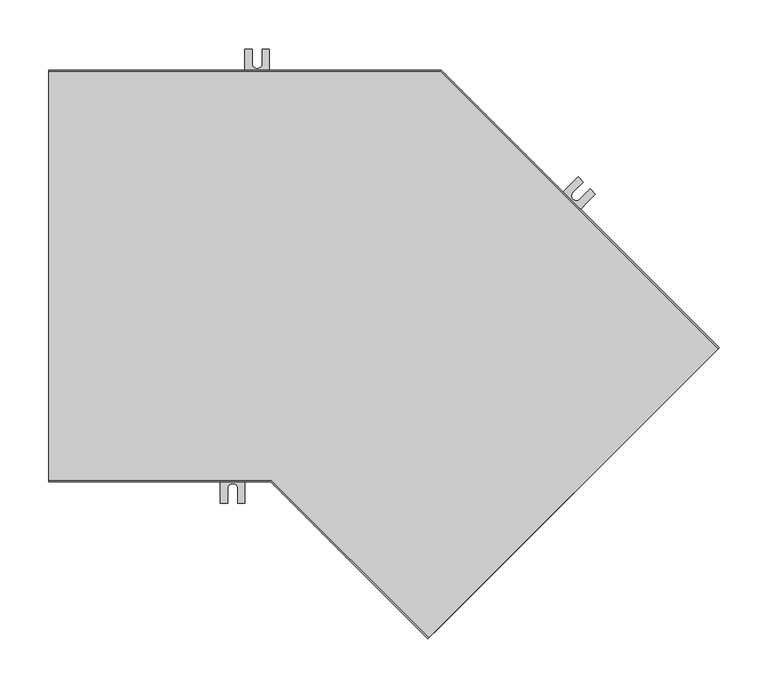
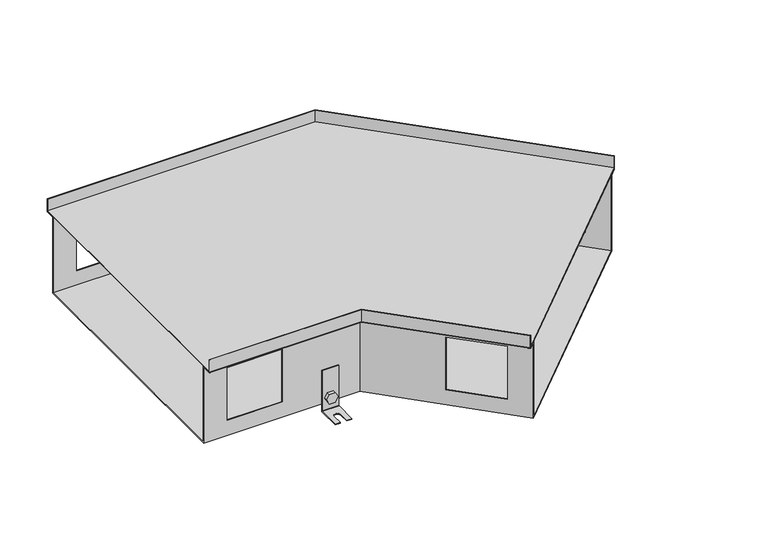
"""IFC4 building model written with IfcOpenShell, lengths in millimetres: proxy geometry, TECHNO_Угловой элемент_KVU : 420_140_135°."""

from ifc_helpers import new_model, si_unit, point, frame, frame_2d, origin, place, context, project, spatial, polyline, circle_curve, ellipse_curve, trimmed, segment, composite_curve, outline, extrude, source, transform, mapped, element, save
from ifc_brep_helpers import plane_surface, cylinder_surface, revolved_surface, advanced_brep


def mechanical_equipment_f61f8570(model_context):
    return source(origin(), model_context, "Body", "SolidModel", [
        extrude(outline(composite_curve([segment(trimmed(circle_curve(frame_2d((0.0, -7.5)), 7.5), [point((0.0, -15.0))], [point((0.0, 0.0))], False, "CARTESIAN"), True, "CONTINUOUS"), segment(trimmed(circle_curve(frame_2d((0.0, -7.5)), 7.5), [point((0.0, 0.0))], [point((0.0, -15.0))], False, "CARTESIAN"), True, "CONTINUOUS")], self_intersect=False)), frame((475.0290547, -27.3050358, -130.5), z_axis=(0.7071067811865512, 0.7071067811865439, 0.0), x_axis=(0.0, 0.0, 1.0)), (0.0, 0.0, 1.0), 1.5),
        extrude(outline(polyline([(0.0, 0.0), (8.6602541, 0.0), (12.990381, -7.5), (8.660254, -15.0), (0.0, -15.0), (-4.330127, -7.5), (0.0, 0.0)])), frame((459.1472568, -20.3327833, -130.5), z_axis=(0.7071067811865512, 0.7071067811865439, 0.0), x_axis=(0.3535533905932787, -0.3535533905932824, -0.8660254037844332)), (0.0, 0.0, 1.0), 5.1),
        advanced_brep(
        [(477.7160605, -31.6890978, -85.5), (477.7160605, -31.6890978, -148.5), (477.1503751, -32.2547832, -149.3), (453.8158513, -55.589307, -149.3), (453.8158513, -55.589307, -150.5), (477.1503751, -32.2547832, -150.5), (478.5645886, -30.8405697, -148.5), (478.5645886, -30.8405697, -85.5), (460.038391, -14.0114283, -85.5), (460.8869191, -13.1629001, -85.5), (460.8869191, -13.1629001, -148.5), (459.4727056, -14.5771137, -150.5), (436.1381818, -37.9116375, -150.5), (436.1381818, -37.9116375, -149.3), (459.4727056, -14.5771137, -149.3), (460.038391, -14.0114283, -148.5), (441.4414826, -43.2149383, -149.3), (452.0480843, -32.6083366, -149.3), (459.1191522, -39.6794044, -149.3), (448.5125504, -50.2860062, -149.3), (448.5125504, -50.2860062, -150.5), (441.4414826, -43.2149383, -150.5), (459.1191522, -39.6794044, -150.5), (452.0480843, -32.6083366, -150.5)],
        [
            (0, 1),
            (1, 2, circle_curve(frame((477.1503751, -32.2547832, -148.5), z_axis=(-0.7071067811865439, 0.7071067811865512, 0.0), x_axis=(-0.7071067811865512, -0.7071067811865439, 0.0)), 0.8)),
            (2, 3),
            (3, 4),
            (4, 5),
            (5, 6, circle_curve(frame((477.1503751, -32.2547832, -148.5), z_axis=(0.7071067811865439, -0.7071067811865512, 0.0), x_axis=(-0.7071067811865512, -0.7071067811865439, 0.0)), 2.0)),
            (6, 7),
            (7, 0),
            (8, 9),
            (9, 10),
            (10, 11, circle_curve(frame((459.4727056, -14.5771137, -148.5), z_axis=(-0.7071067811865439, 0.7071067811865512, 0.0), x_axis=(-0.7071067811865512, -0.7071067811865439, 0.0)), 2.0)),
            (11, 12),
            (12, 13),
            (13, 14),
            (14, 15, circle_curve(frame((459.4727056, -14.5771137, -148.5), z_axis=(0.7071067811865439, -0.7071067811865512, 0.0), x_axis=(-0.7071067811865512, -0.7071067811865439, 0.0)), 0.8)),
            (15, 8),
            (0, 8),
            (15, 1),
            (14, 2),
            (13, 16),
            (16, 17),
            (17, 18, circle_curve(frame((455.5836183, -36.1438705, -149.3), z_axis=(0.0, 0.0, -1.0), x_axis=(0.7071067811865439, -0.7071067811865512, 0.0)), 5.0)),
            (18, 19),
            (19, 3),
            (19, 20),
            (20, 4),
            (12, 21),
            (21, 16),
            (20, 22),
            (22, 23, circle_curve(frame((455.5836183, -36.1438705, -150.5), z_axis=(0.0, 0.0, 1.0), x_axis=(0.7071067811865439, -0.7071067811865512, 0.0)), 5.0)),
            (23, 21),
            (11, 5),
            (10, 6),
            (9, 7),
            (23, 17),
            (18, 22),
        ],
        [
            plane_surface(frame((477.7160605, -31.6890978, -85.5), z_axis=(0.7071067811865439, -0.7071067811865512, 0.0), x_axis=(0.0, 0.0, -1.0))),
            plane_surface(frame((460.038391, -14.0114283, -85.5), z_axis=(-0.7071067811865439, 0.7071067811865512, 0.0), x_axis=(0.0, 0.0, 1.0))),
            plane_surface(frame((477.7160605, -31.6890978, -85.5), z_axis=(-0.7071067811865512, -0.7071067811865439, 0.0), x_axis=(-0.7071067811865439, 0.7071067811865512, 0.0))),
            revolved_surface(polyline([(458.9070201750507, -15.142799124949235, -148.5), (476.58468967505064, -32.82046862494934, -148.5)]), (459.4727056, -14.5771137, -148.5), (-0.7071067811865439, 0.7071067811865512, 0.0)),
            plane_surface(frame((477.1503751, -32.2547832, -149.3), z_axis=(0.0, 0.0, 1.0), x_axis=(-0.7071067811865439, 0.7071067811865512, 0.0))),
            plane_surface(frame((453.8158513, -55.589307, -149.3), z_axis=(-0.7071067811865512, -0.7071067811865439, 0.0), x_axis=(-0.7071067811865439, 0.7071067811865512, 0.0))),
            plane_surface(frame((453.8158513, -55.589307, -150.5), z_axis=(0.0, 0.0, -1.0), x_axis=(-0.7071067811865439, 0.7071067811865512, 0.0))),
            cylinder_surface(frame((459.4727056, -14.5771137, -148.5), z_axis=(0.7071067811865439, -0.7071067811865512, 0.0), x_axis=(-0.7071067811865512, -0.7071067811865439, 0.0)), 2.0),
            plane_surface(frame((478.5645886, -30.8405697, -148.5), z_axis=(0.7071067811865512, 0.7071067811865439, 0.0), x_axis=(-0.7071067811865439, 0.7071067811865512, 0.0))),
            plane_surface(frame((478.5645886, -30.8405697, -85.5), z_axis=(0.0, 0.0, 1.0), x_axis=(-0.7071067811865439, 0.7071067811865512, 0.0))),
            plane_surface(frame((452.0480843, -32.6083366, -149.3), z_axis=(0.7071067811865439, -0.7071067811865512, 0.0), x_axis=(0.0, 0.0, -1.0))),
            plane_surface(frame((448.5125504, -50.2860062, -149.3), z_axis=(-0.707106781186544, 0.7071067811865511, 0.0), x_axis=(0.0, 0.0, -1.0))),
            revolved_surface(polyline([(459.1191522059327, -39.67940440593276, -149.3), (459.1191522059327, -39.67940440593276, -150.5)]), (455.5836183, -36.1438705, -150.5), (0.0, 0.0, 1.0)),
        ],
        [
            (0, [[1, 2, 3, 4, 5, 6, 7, 8]]),
            (1, [[9, 10, 11, 12, 13, 14, 15, 16]]),
            (2, [[-1, 17, -16, 18]]),
            (3, [[-2, -18, -15, 19]]),
            (4, [[-3, -19, -14, 20, 21, 22, 23, 24]]),
            (5, [[-4, -24, 25, 26]]),
            (5, [[-13, 27, 28, -20]]),
            (6, [[-5, -26, 29, 30, 31, -27, -12, 32]]),
            (7, [[-6, -32, -11, 33]]),
            (8, [[-7, -33, -10, 34]]),
            (9, [[-8, -34, -9, -17]]),
            (10, [[35, -21, -28, -31]]),
            (11, [[36, -29, -25, -23]]),
            (12, [[-35, -30, -36, -22]]),
        ],
    ),
        extrude(outline(composite_curve([segment(trimmed(circle_curve(frame_2d((0.0, -7.5)), 7.5), [point((0.0, -15.0))], [point((0.0, 0.0))], False, "CARTESIAN"), True, "CONTINUOUS"), segment(trimmed(circle_curve(frame_2d((0.0, -7.5)), 7.5), [point((0.0, 0.0))], [point((0.0, -15.0))], False, "CARTESIAN"), True, "CONTINUOUS")], self_intersect=False)), frame((517.6675936, 71.9020456, -130.5), z_axis=(0.7071067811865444, 0.7071067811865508, 0.0), x_axis=(0.0, 0.0, -1.0)), (0.0, 0.0, 1.0), 1.5),
        extrude(outline(polyline([(0.0, 0.0), (4.330127, -7.5), (0.0, -15.0000001), (-8.660254, -15.0), (-12.9903811, -7.5000001), (-8.6602541, 0.0), (0.0, 0.0)])), frame((531.0038072, 62.3842087, -130.5), z_axis=(0.7071067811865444, 0.7071067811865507, 0.0), x_axis=(0.35355339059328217, -0.35355339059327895, 0.8660254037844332)), (0.0, 0.0, 1.0), 5.1),
        advanced_brep(
        [(516.041248, 77.3467678, -85.5), (516.041248, 77.3467678, -148.5), (516.6069335, 77.9124533, -149.3), (539.9414572, 101.2469771, -149.3), (539.9414572, 101.2469771, -150.5), (516.6069335, 77.9124533, -150.5), (515.1927199, 76.4982397, -148.5), (515.1927199, 76.4982397, -85.5), (533.7189176, 59.6690983, -85.5), (532.8703894, 58.8205702, -85.5), (532.8703894, 58.8205702, -148.5), (534.284603, 60.2347837, -150.5), (557.6191268, 83.5693075, -150.5), (557.6191268, 83.5693075, -149.3), (534.284603, 60.2347837, -149.3), (533.7189176, 59.6690983, -148.5), (552.3158259, 88.8726084, -149.3), (541.7092242, 78.2660067, -149.3), (534.6381564, 85.3370745, -149.3), (545.2447581, 95.9436762, -149.3), (545.2447581, 95.9436762, -150.5), (552.3158259, 88.8726084, -150.5), (534.6381564, 85.3370745, -150.5), (541.7092242, 78.2660067, -150.5)],
        [
            (0, 1),
            (1, 2, circle_curve(frame((516.6069335, 77.9124533, -148.5), z_axis=(0.7071067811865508, -0.7071067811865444, 0.0), x_axis=(0.7071067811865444, 0.7071067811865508, 0.0)), 0.8)),
            (2, 3),
            (3, 4),
            (4, 5),
            (5, 6, circle_curve(frame((516.6069335, 77.9124533, -148.5), z_axis=(-0.7071067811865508, 0.7071067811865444, 0.0), x_axis=(0.7071067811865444, 0.7071067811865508, 0.0)), 2.0)),
            (6, 7),
            (7, 0),
            (8, 9),
            (9, 10),
            (10, 11, circle_curve(frame((534.284603, 60.2347837, -148.5), z_axis=(0.7071067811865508, -0.7071067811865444, 0.0), x_axis=(0.7071067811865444, 0.7071067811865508, 0.0)), 2.0)),
            (11, 12),
            (12, 13),
            (13, 14),
            (14, 15, circle_curve(frame((534.284603, 60.2347837, -148.5), z_axis=(-0.7071067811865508, 0.7071067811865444, 0.0), x_axis=(0.7071067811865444, 0.7071067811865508, 0.0)), 0.8)),
            (15, 8),
            (0, 8),
            (15, 1),
            (14, 2),
            (13, 16),
            (16, 17),
            (17, 18, circle_curve(frame((538.1736903, 81.8015406, -149.3), z_axis=(0.0, 0.0, -1.0), x_axis=(-0.7071067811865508, 0.7071067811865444, 0.0)), 5.0)),
            (18, 19),
            (19, 3),
            (19, 20),
            (20, 4),
            (12, 21),
            (21, 16),
            (20, 22),
            (22, 23, circle_curve(frame((538.1736903, 81.8015406, -150.5), z_axis=(0.0, 0.0, 1.0), x_axis=(-0.7071067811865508, 0.7071067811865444, 0.0)), 5.0)),
            (23, 21),
            (11, 5),
            (10, 6),
            (9, 7),
            (23, 17),
            (18, 22),
        ],
        [
            plane_surface(frame((516.041248, 77.3467678, -85.5), z_axis=(-0.7071067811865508, 0.7071067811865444, 0.0), x_axis=(0.0, 0.0, -1.0))),
            plane_surface(frame((533.7189176, 59.6690983, -85.5), z_axis=(0.7071067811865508, -0.7071067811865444, 0.0), x_axis=(0.0, 0.0, 1.0))),
            plane_surface(frame((516.041248, 77.3467678, -85.5), z_axis=(0.7071067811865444, 0.7071067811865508, 0.0), x_axis=(0.7071067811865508, -0.7071067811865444, 0.0))),
            revolved_surface(polyline([(534.8502884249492, 60.800469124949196, -148.5), (517.1726188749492, 78.47813867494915, -148.5)]), (534.284603, 60.2347837, -148.5), (0.7071067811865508, -0.7071067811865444, 0.0)),
            plane_surface(frame((516.6069335, 77.9124533, -149.3), z_axis=(0.0, 0.0, 1.0000000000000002), x_axis=(0.7071067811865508, -0.7071067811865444, 0.0))),
            plane_surface(frame((539.9414572, 101.2469771, -149.3), z_axis=(0.7071067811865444, 0.7071067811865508, 0.0), x_axis=(0.7071067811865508, -0.7071067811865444, 0.0))),
            plane_surface(frame((539.9414572, 101.2469771, -150.5), z_axis=(0.0, 0.0, -1.0000000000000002), x_axis=(0.7071067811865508, -0.7071067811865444, 0.0))),
            cylinder_surface(frame((534.284603, 60.2347837, -148.5), z_axis=(-0.7071067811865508, 0.7071067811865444, 0.0), x_axis=(0.7071067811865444, 0.7071067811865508, 0.0)), 2.0),
            plane_surface(frame((515.1927199, 76.4982397, -148.5), z_axis=(-0.7071067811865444, -0.7071067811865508, 0.0), x_axis=(0.7071067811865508, -0.7071067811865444, 0.0))),
            plane_surface(frame((515.1927199, 76.4982397, -85.5), z_axis=(0.0, 0.0, 1.0000000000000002), x_axis=(0.7071067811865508, -0.7071067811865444, 0.0))),
            plane_surface(frame((541.7092242, 78.2660067, -149.3), z_axis=(-0.7071067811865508, 0.7071067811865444, 0.0), x_axis=(0.0, 0.0, -1.0))),
            plane_surface(frame((545.2447581, 95.9436762, -149.3), z_axis=(0.7071067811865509, -0.7071067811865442, 0.0), x_axis=(0.0, 0.0, -1.0))),
            revolved_surface(polyline([(534.6381563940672, 85.33707450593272, -149.3), (534.6381563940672, 85.33707450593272, -150.5)]), (538.1736903, 81.8015406, -150.5), (0.0, 0.0, 1.0)),
        ],
        [
            (0, [[1, 2, 3, 4, 5, 6, 7, 8]]),
            (1, [[9, 10, 11, 12, 13, 14, 15, 16]]),
            (2, [[-1, 17, -16, 18]]),
            (3, [[-2, -18, -15, 19]]),
            (4, [[-3, -19, -14, 20, 21, 22, 23, 24]]),
            (5, [[-4, -24, 25, 26]]),
            (5, [[-13, 27, 28, -20]]),
            (6, [[-5, -26, 29, 30, 31, -27, -12, 32]]),
            (7, [[-6, -32, -11, 33]]),
            (8, [[-7, -33, -10, 34]]),
            (9, [[-8, -34, -9, -17]]),
            (10, [[35, -21, -28, -31]]),
            (11, [[36, -29, -25, -23]]),
            (12, [[-35, -30, -36, -22]]),
        ],
    ),
        extrude(outline(composite_curve([segment(trimmed(circle_curve(frame_2d((-130.5, 212.5)), 7.5), [point((-130.5, 205.0))], [point((-130.5, 220.0))], False, "CARTESIAN"), True, "CONTINUOUS"), segment(trimmed(circle_curve(frame_2d((-130.5, 212.5)), 7.5), [point((-130.5, 220.0))], [point((-130.5, 205.0))], False, "CARTESIAN"), True, "CONTINUOUS")], self_intersect=False)), frame((0.0, 195.2, 0.0), z_axis=(0.0, 1.0, 0.0), x_axis=(0.0, 0.0, 1.0)), (0.0, 0.0, 1.0), 1.5),
        extrude(outline(polyline([(-130.5, 203.839746), (-138.0, 208.169873), (-138.0, 216.830127), (-130.5, 221.160254), (-123.0, 216.830127), (-123.0, 208.169873), (-130.5, 203.839746)])), frame((0.0, 197.9, 0.0), z_axis=(0.0, 1.0, 0.0), x_axis=(0.0, 0.0, 1.0)), (0.0, 0.0, 1.0), 5.1),
        advanced_brep(
        [(225.0, 197.9, -85.5), (225.0, 196.7, -85.5), (225.0, 196.7, -148.5), (225.0, 198.7, -150.5), (225.0, 231.7, -150.5), (225.0, 231.7, -149.3), (225.0, 198.7, -149.3), (225.0, 197.9, -148.5), (200.0, 197.9, -85.5), (200.0, 197.9, -148.5), (200.0, 198.7, -149.3), (200.0, 231.7, -149.3), (200.0, 231.7, -150.5), (200.0, 198.7, -150.5), (200.0, 196.7, -148.5), (200.0, 196.7, -85.5), (217.5, 231.7, -149.3), (217.5, 216.7, -149.3), (207.5, 216.7, -149.3), (207.5, 231.7, -149.3), (207.5, 231.7, -150.5), (217.5, 231.7, -150.5), (207.5, 216.7, -150.5), (217.5, 216.7, -150.5)],
        [
            (0, 1),
            (1, 2),
            (2, 3, circle_curve(frame((225.0, 198.7, -148.5), z_axis=(1.0, 0.0, 0.0), x_axis=(0.0, 1.0, 0.0)), 2.0)),
            (3, 4),
            (4, 5),
            (5, 6),
            (6, 7, circle_curve(frame((225.0, 198.7, -148.5), z_axis=(-1.0, 0.0, 0.0), x_axis=(0.0, 1.0, 0.0)), 0.8)),
            (7, 0),
            (8, 9),
            (9, 10, circle_curve(frame((200.0, 198.7, -148.5), z_axis=(1.0, 0.0, 0.0), x_axis=(0.0, 1.0, 0.0)), 0.8)),
            (10, 11),
            (11, 12),
            (12, 13),
            (13, 14, circle_curve(frame((200.0, 198.7, -148.5), z_axis=(-1.0, 0.0, 0.0), x_axis=(0.0, 1.0, 0.0)), 2.0)),
            (14, 15),
            (15, 8),
            (7, 9),
            (8, 0),
            (6, 10),
            (5, 16),
            (16, 17),
            (17, 18, circle_curve(frame((212.5, 216.7, -149.3), z_axis=(0.0, 0.0, -1.0), x_axis=(1.0, 0.0, 0.0)), 5.0)),
            (18, 19),
            (19, 11),
            (19, 20),
            (20, 12),
            (4, 21),
            (21, 16),
            (3, 13),
            (20, 22),
            (22, 23, circle_curve(frame((212.5, 216.7, -150.5), z_axis=(0.0, 0.0, 1.0), x_axis=(1.0, 0.0, 0.0)), 5.0)),
            (23, 21),
            (2, 14),
            (1, 15),
            (18, 22),
            (23, 17),
        ],
        [
            plane_surface(frame((225.0, 197.9, -85.5), z_axis=(1.0, 0.0, 0.0), x_axis=(0.0, 0.0, -1.0))),
            plane_surface(frame((200.0, 197.9, -85.5), z_axis=(-1.0, 0.0, 0.0), x_axis=(0.0, 0.0, 1.0))),
            plane_surface(frame((225.0, 197.9, -85.5), z_axis=(0.0, 1.0, 0.0), x_axis=(-1.0, 0.0, 0.0))),
            revolved_surface(polyline([(200.0, 199.5, -148.5), (225.0, 199.5, -148.5)]), (200.0, 198.7, -148.5), (-1.0, 0.0, 0.0)),
            plane_surface(frame((225.0, 198.7, -149.3), z_axis=(0.0, 0.0, 1.0), x_axis=(-1.0, 0.0, 0.0))),
            plane_surface(frame((225.0, 231.7, -149.3), z_axis=(0.0, 1.0, 0.0), x_axis=(-1.0, 0.0, 0.0))),
            plane_surface(frame((225.0, 231.7, -150.5), z_axis=(0.0, 0.0, -1.0), x_axis=(-1.0, 0.0, 0.0))),
            cylinder_surface(frame((200.0, 198.7, -148.5), z_axis=(1.0, 0.0, 0.0), x_axis=(0.0, 1.0, 0.0)), 2.0),
            plane_surface(frame((225.0, 196.7, -148.5), z_axis=(0.0, -1.0, 0.0), x_axis=(-1.0, 0.0, 0.0))),
            plane_surface(frame((225.0, 196.7, -85.5), z_axis=(0.0, 0.0, 1.0), x_axis=(-1.0, 0.0, 0.0))),
            plane_surface(frame((207.5, 216.7, -149.3), z_axis=(1.0, 0.0, 0.0), x_axis=(0.0, 0.0, -1.0))),
            plane_surface(frame((217.5, 231.7, -149.3), z_axis=(-1.0, 0.0, 0.0), x_axis=(0.0, 0.0, -1.0))),
            revolved_surface(polyline([(217.5, 216.7, -149.3), (217.5, 216.7, -150.5)]), (212.5, 216.7, -150.5), (0.0, 0.0, 1.0)),
        ],
        [
            (0, [[1, 2, 3, 4, 5, 6, 7, 8]]),
            (1, [[9, 10, 11, 12, 13, 14, 15, 16]]),
            (2, [[17, -9, 18, -8]]),
            (3, [[19, -10, -17, -7]]),
            (4, [[20, 21, 22, 23, 24, -11, -19, -6]]),
            (5, [[-24, 25, 26, -12]]),
            (5, [[27, 28, -20, -5]]),
            (6, [[29, -13, -26, 30, 31, 32, -27, -4]]),
            (7, [[33, -14, -29, -3]]),
            (8, [[34, -15, -33, -2]]),
            (9, [[-18, -16, -34, -1]]),
            (10, [[-30, -25, -23, 35]]),
            (11, [[-21, -28, -32, 36]]),
            (12, [[-22, -36, -31, -35]]),
        ],
    ),
        extrude(outline(composite_curve([segment(trimmed(circle_curve(frame_2d((-130.5, 187.5)), 7.5), [point((-130.5, 180.0))], [point((-130.5, 195.0))], False, "CARTESIAN"), True, "CONTINUOUS"), segment(trimmed(circle_curve(frame_2d((-130.5, 187.5)), 7.5), [point((-130.5, 195.0))], [point((-130.5, 180.0))], False, "CARTESIAN"), True, "CONTINUOUS")], self_intersect=False)), frame((0.0, -196.7, 0.0), z_axis=(0.0, 1.0, 0.0), x_axis=(0.0, 0.0, 1.0)), (0.0, 0.0, 1.0), 1.5),
        extrude(outline(polyline([(-130.5, 178.839746), (-138.0, 183.169873), (-138.0, 191.830127), (-130.5, 196.160254), (-123.0, 191.830127), (-123.0, 183.169873), (-130.5, 178.839746)])), frame((0.0, -203.0, 0.0), z_axis=(0.0, 1.0, 0.0), x_axis=(0.0, 0.0, 1.0)), (0.0, 0.0, 1.0), 5.1),
        advanced_brep(
        [(200.0, -197.9, -85.5), (200.0, -197.9, -148.5), (200.0, -198.7, -149.3), (200.0, -231.7, -149.3), (200.0, -231.7, -150.5), (200.0, -198.7, -150.5), (200.0, -196.7, -148.5), (200.0, -196.7, -85.5), (175.0, -197.9, -85.5), (175.0, -196.7, -85.5), (175.0, -196.7, -148.5), (175.0, -198.7, -150.5), (175.0, -231.7, -150.5), (175.0, -231.7, -149.3), (175.0, -198.7, -149.3), (175.0, -197.9, -148.5), (182.5, -231.7, -149.3), (182.5, -216.7, -149.3), (192.5, -216.7, -149.3), (192.5, -231.7, -149.3), (192.5, -231.7, -150.5), (182.5, -231.7, -150.5), (192.5, -216.7, -150.5), (182.5, -216.7, -150.5)],
        [
            (0, 1),
            (1, 2, circle_curve(frame((200.0, -198.7, -148.5), z_axis=(-1.0, 0.0, 0.0), x_axis=(0.0, -1.0, 0.0)), 0.8)),
            (2, 3),
            (3, 4),
            (4, 5),
            (5, 6, circle_curve(frame((200.0, -198.7, -148.5), z_axis=(1.0, 0.0, 0.0), x_axis=(0.0, -1.0, 0.0)), 2.0)),
            (6, 7),
            (7, 0),
            (8, 9),
            (9, 10),
            (10, 11, circle_curve(frame((175.0, -198.7, -148.5), z_axis=(-1.0, 0.0, 0.0), x_axis=(0.0, -1.0, 0.0)), 2.0)),
            (11, 12),
            (12, 13),
            (13, 14),
            (14, 15, circle_curve(frame((175.0, -198.7, -148.5), z_axis=(1.0, 0.0, 0.0), x_axis=(0.0, -1.0, 0.0)), 0.8)),
            (15, 8),
            (0, 8),
            (15, 1),
            (14, 2),
            (13, 16),
            (16, 17),
            (17, 18, circle_curve(frame((187.5, -216.7, -149.3), z_axis=(0.0, 0.0, -1.0), x_axis=(1.0, 0.0, 0.0)), 5.0)),
            (18, 19),
            (19, 3),
            (19, 20),
            (20, 4),
            (12, 21),
            (21, 16),
            (20, 22),
            (22, 23, circle_curve(frame((187.5, -216.7, -150.5), z_axis=(0.0, 0.0, 1.0), x_axis=(1.0, 0.0, 0.0)), 5.0)),
            (23, 21),
            (11, 5),
            (10, 6),
            (9, 7),
            (23, 17),
            (18, 22),
        ],
        [
            plane_surface(frame((200.0, -197.9, -85.5), z_axis=(1.0, 0.0, 0.0), x_axis=(0.0, 0.0, -1.0))),
            plane_surface(frame((175.0, -197.9, -85.5), z_axis=(-1.0, 0.0, 0.0), x_axis=(0.0, 0.0, 1.0))),
            plane_surface(frame((200.0, -197.9, -85.5), z_axis=(0.0, -1.0, 0.0), x_axis=(-1.0, 0.0, 0.0))),
            revolved_surface(polyline([(175.0, -199.5, -148.5), (200.0, -199.5, -148.5)]), (175.0, -198.7, -148.5), (-1.0, 0.0, 0.0)),
            plane_surface(frame((200.0, -198.7, -149.3), z_axis=(0.0, 0.0, 1.0), x_axis=(-1.0, 0.0, 0.0))),
            plane_surface(frame((200.0, -231.7, -149.3), z_axis=(0.0, -1.0, 0.0), x_axis=(-1.0, 0.0, 0.0))),
            plane_surface(frame((200.0, -231.7, -150.5), z_axis=(0.0, 0.0, -1.0), x_axis=(-1.0, 0.0, 0.0))),
            cylinder_surface(frame((175.0, -198.7, -148.5), z_axis=(1.0, 0.0, 0.0), x_axis=(0.0, -1.0, 0.0)), 2.0),
            plane_surface(frame((200.0, -196.7, -148.5), z_axis=(0.0, 1.0, 0.0), x_axis=(-1.0, 0.0, 0.0))),
            plane_surface(frame((200.0, -196.7, -85.5), z_axis=(0.0, 0.0, 1.0), x_axis=(-1.0, 0.0, 0.0))),
            plane_surface(frame((182.5, -216.7, -149.3), z_axis=(1.0, 0.0, 0.0), x_axis=(0.0, 0.0, -1.0))),
            plane_surface(frame((192.5, -231.7, -149.3), z_axis=(-1.0, 0.0, 0.0), x_axis=(0.0, 0.0, -1.0))),
            revolved_surface(polyline([(192.5, -216.7, -149.3), (192.5, -216.7, -150.5)]), (187.5, -216.7, -150.5), (0.0, 0.0, 1.0)),
        ],
        [
            (0, [[1, 2, 3, 4, 5, 6, 7, 8]]),
            (1, [[9, 10, 11, 12, 13, 14, 15, 16]]),
            (2, [[-1, 17, -16, 18]]),
            (3, [[-2, -18, -15, 19]]),
            (4, [[-3, -19, -14, 20, 21, 22, 23, 24]]),
            (5, [[-4, -24, 25, 26]]),
            (5, [[-13, 27, 28, -20]]),
            (6, [[-5, -26, 29, 30, 31, -27, -12, 32]]),
            (7, [[-6, -32, -11, 33]]),
            (8, [[-7, -33, -10, 34]]),
            (9, [[-8, -34, -9, -17]]),
            (10, [[35, -21, -28, -31]]),
            (11, [[36, -29, -25, -23]]),
            (12, [[-35, -30, -36, -22]]),
        ],
    ),
        extrude(outline(polyline([(682.8477377, -74.044794), (387.5599459, -369.3325858), (227.0273601, -208.8), (0.0, -208.8), (0.0, 208.8), (400.0029437, 208.8), (682.8477377, -74.044794)])), frame((0.0, 0.0, -19.3), z_axis=(0.0, 0.0, 1.0), x_axis=(1.0, 0.0, 0.0)), (0.0, 0.0, 1.0), 1.2),
        advanced_brep(
        [(386.7114178, -370.181114, -19.3), (387.5599459, -369.3325858, -20.5), (397.1765981, -359.7159336, -20.5), (397.1765981, -359.7159336, -140.0), (673.2310855, -83.6614462, -140.0), (673.2310855, -83.6614462, -20.5), (682.8477377, -74.044794, -20.5), (683.6962659, -73.1962659, -19.3), (683.6962659, -73.1962659, 0.0), (682.8477377, -74.044794, 0.0), (682.8477377, -74.044794, -19.3), (673.2310855, -83.6614462, -19.3), (672.3825574, -84.5099744, -20.5), (672.3825574, -84.5099744, -138.8), (398.0251263, -358.8674055, -138.8), (398.0251263, -358.8674055, -20.5), (397.1765981, -359.7159336, -19.3), (387.5599459, -369.3325858, -19.3), (387.5599459, -369.3325858, 0.0), (386.7114178, -370.181114, 0.0), (0.0, -210.0, -19.3), (0.0, -210.0, 0.0), (0.0, -208.8, 0.0), (0.0, -208.8, -19.3), (0.0, -195.2, -19.3), (0.0, -194.0, -20.5), (0.0, -194.0, -138.8), (0.0, 194.0, -138.8), (0.0, 194.0, -20.5), (0.0, 195.2, -19.3), (0.0, 208.8, -19.3), (0.0, 208.8, 0.0), (0.0, 210.0, 0.0), (0.0, 210.0, -19.3), (0.0, 208.8, -20.5), (0.0, 195.2, -20.5), (0.0, 195.2, -140.0), (0.0, -195.2, -140.0), (0.0, -195.2, -20.5), (0.0, -208.8, -20.5), (227.0273601, -208.8, -20.5), (226.5303038, -210.0, -19.3), (227.0273601, -208.8, 0.0), (227.0273601, -208.8, -19.3), (232.6606645, -195.2, -140.0), (232.6606645, -195.2, -20.5), (35.0, -195.2, -33.2), (117.0, -195.2, -33.2), (117.0, -195.2, -116.2), (35.0, -195.2, -116.2), (233.1577208, -194.0, -20.5), (233.1577208, -194.0, -138.8), (117.0, -194.0, -33.2), (35.0, -194.0, -33.2), (35.0, -194.0, -116.2), (117.0, -194.0, -116.2), (232.6606645, -195.2, -19.3), (314.4451047, -276.9844402, -33.2), (372.4278608, -334.9671963, -33.2), (372.4278608, -334.9671963, -116.2), (314.4451047, -276.9844402, -116.2), (394.3696393, 195.2, -140.0), (393.872583, 194.0, -138.8), (373.2763889, -334.1186681, -33.2), (315.2936329, -276.1359121, -33.2), (315.2936329, -276.1359121, -116.2), (373.2763889, -334.1186681, -116.2), (226.5303038, -210.0, 0.0), (394.3696393, 195.2, -20.5), (648.4823482, -58.9127089, -33.2), (590.4995921, -0.9299528, -33.2), (590.4995921, -0.9299528, -116.2), (648.4823482, -58.9127089, -116.2), (400.0029437, 208.8, -20.5), (400.5, 210.0, -19.3), (400.5, 210.0, 0.0), (400.0029437, 208.8, 0.0), (400.0029437, 208.8, -19.3), (394.3696393, 195.2, -19.3), (393.872583, 194.0, -20.5), (589.651064, -1.778481, -33.2), (647.63382, -59.761237, -33.2), (647.63382, -59.761237, -116.2), (589.651064, -1.778481, -116.2), (117.0, 195.2, -33.2), (35.0, 195.2, -33.2), (35.0, 195.2, -116.2), (117.0, 195.2, -116.2), (35.0, 194.0, -33.2), (117.0, 194.0, -33.2), (117.0, 194.0, -116.2), (35.0, 194.0, -116.2)],
        [
            (0, 1, circle_curve(frame((387.5599459, -369.3325858, -19.3), z_axis=(0.707106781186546, -0.707106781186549, 0.0), x_axis=(-0.707106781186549, -0.707106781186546, 0.0)), 1.2)),
            (1, 2),
            (2, 3),
            (3, 4),
            (4, 5),
            (5, 6),
            (6, 7, circle_curve(frame((682.8477377, -74.044794, -19.3), z_axis=(0.707106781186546, -0.707106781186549, 0.0), x_axis=(-0.707106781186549, -0.707106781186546, 0.0)), 1.2)),
            (7, 8),
            (8, 9),
            (9, 10),
            (10, 11),
            (11, 12, circle_curve(frame((673.2310855, -83.6614462, -20.5), z_axis=(0.707106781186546, -0.707106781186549, 0.0), x_axis=(-0.707106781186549, -0.707106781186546, 0.0)), 1.2)),
            (12, 13),
            (13, 14),
            (14, 15),
            (15, 16, circle_curve(frame((397.1765981, -359.7159336, -20.5), z_axis=(0.707106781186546, -0.707106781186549, 0.0), x_axis=(-0.707106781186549, -0.707106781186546, 0.0)), 1.2)),
            (16, 17),
            (17, 18),
            (18, 19),
            (19, 0),
            (20, 21),
            (21, 22),
            (22, 23),
            (23, 24),
            (24, 25, circle_curve(frame((0.0, -195.2, -20.5), z_axis=(-1.0, 0.0, 0.0), x_axis=(0.0, -1.0, 0.0)), 1.2)),
            (25, 26),
            (26, 27),
            (27, 28),
            (28, 29, circle_curve(frame((0.0, 195.2, -20.5), z_axis=(-1.0, 0.0, 0.0), x_axis=(0.0, -1.0, 0.0)), 1.2)),
            (29, 30),
            (30, 31),
            (31, 32),
            (32, 33),
            (33, 34, circle_curve(frame((0.0, 208.8, -19.3), z_axis=(-1.0, 0.0, 0.0), x_axis=(0.0, -1.0, 0.0)), 1.2)),
            (34, 35),
            (35, 36),
            (36, 37),
            (37, 38),
            (38, 39),
            (39, 20, circle_curve(frame((0.0, -208.8, -19.3), z_axis=(-1.0, 0.0, 0.0), x_axis=(0.0, -1.0, 0.0)), 1.2)),
            (39, 40),
            (40, 41, ellipse_curve(frame((227.0273601, -208.8, -19.3), z_axis=(-0.9238795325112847, 0.3826834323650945, 0.0), x_axis=(0.3826834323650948, 0.9238795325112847, 0.0)), 1.2988706, 1.2)),
            (41, 20),
            (22, 42),
            (42, 43),
            (43, 23),
            (37, 44),
            (44, 45),
            (45, 38),
            (46, 47),
            (47, 48),
            (48, 49),
            (49, 46),
            (25, 50),
            (50, 51),
            (51, 26),
            (52, 53),
            (53, 54),
            (54, 55),
            (55, 52),
            (24, 56),
            (56, 50, ellipse_curve(frame((232.6606645, -195.2, -20.5), z_axis=(-0.9238795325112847, 0.3826834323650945, 0.0), x_axis=(0.3826834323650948, 0.9238795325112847, 0.0)), 1.2988706, 1.2)),
            (0, 41),
            (40, 1),
            (45, 2),
            (44, 3),
            (57, 58),
            (58, 59),
            (59, 60),
            (60, 57),
            (36, 61),
            (61, 4),
            (13, 62),
            (62, 27),
            (51, 14),
            (50, 15),
            (63, 64),
            (64, 65),
            (65, 66),
            (66, 63),
            (56, 16),
            (43, 17),
            (42, 18),
            (21, 67),
            (67, 19),
            (61, 68),
            (68, 5),
            (69, 70),
            (70, 71),
            (71, 72),
            (72, 69),
            (68, 35),
            (34, 73),
            (73, 6),
            (73, 74, ellipse_curve(frame((400.0029437, 208.8, -19.3), z_axis=(0.9238795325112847, -0.3826834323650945, 0.0), x_axis=(-0.38268343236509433, -0.9238795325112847, 0.0)), 1.2988706, 1.2)),
            (74, 7),
            (74, 75),
            (75, 8),
            (75, 32),
            (31, 76),
            (76, 9),
            (76, 77),
            (77, 10),
            (77, 30),
            (29, 78),
            (78, 11),
            (78, 79, ellipse_curve(frame((394.3696393, 195.2, -20.5), z_axis=(0.9238795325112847, -0.3826834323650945, 0.0), x_axis=(-0.38268343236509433, -0.9238795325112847, 0.0)), 1.2988706, 1.2)),
            (79, 12),
            (79, 62),
            (80, 81),
            (81, 82),
            (82, 83),
            (83, 80),
            (84, 85),
            (85, 86),
            (86, 87),
            (87, 84),
            (33, 74),
            (28, 79),
            (88, 89),
            (89, 90),
            (90, 91),
            (91, 88),
            (41, 67),
            (46, 53),
            (52, 47),
            (88, 85),
            (84, 89),
            (49, 54),
            (91, 86),
            (48, 55),
            (90, 87),
            (57, 64),
            (63, 58),
            (80, 70),
            (69, 81),
            (66, 59),
            (72, 82),
            (65, 60),
            (71, 83),
        ],
        [
            plane_surface(frame((535.2038418, -221.6886899, 0.0), z_axis=(0.707106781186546, -0.707106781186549, 0.0), x_axis=(0.0, 0.0, 1.0))),
            plane_surface(frame((0.0, 0.0, 0.0), z_axis=(-1.0, 0.0, 0.0), x_axis=(0.0, 0.0, 1.0))),
            cylinder_surface(frame((313.5151519, -208.8, -19.3), z_axis=(1.0, 0.0, 0.0), x_axis=(0.0, -1.0, 0.0)), 1.2),
            plane_surface(frame((227.0273601, -208.8, -19.3), z_axis=(0.0, 1.0, 0.0), x_axis=(-1.0, 0.0, 0.0))),
            plane_surface(frame((232.6606645, -195.2, -20.5), z_axis=(0.0, -1.0, 0.0), x_axis=(-1.0, 0.0, 0.0))),
            plane_surface(frame((233.1577208, -194.0, -138.8), z_axis=(0.0, 1.0, 0.0), x_axis=(-1.0, 0.0, 0.0))),
            cylinder_surface(frame((313.5151519, -195.2, -20.5), z_axis=(1.0, 0.0, 0.0), x_axis=(0.0, -1.0, 0.0)), 1.2),
            cylinder_surface(frame((387.5599459, -369.3325858, -19.3), z_axis=(0.707106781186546, -0.707106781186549, 0.0), x_axis=(-0.707106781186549, -0.707106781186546, 0.0)), 1.2),
            plane_surface(frame((387.5599459, -369.3325858, -20.5), z_axis=(0.0, 0.0, -1.0), x_axis=(-0.7071067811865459, 0.7071067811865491, 0.0))),
            plane_surface(frame((397.1765981, -359.7159336, -20.5), z_axis=(-0.707106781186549, -0.707106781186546, 0.0), x_axis=(-0.707106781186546, 0.707106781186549, 0.0))),
            plane_surface(frame((397.1765981, -359.7159336, -140.0), z_axis=(0.0, 0.0, -1.0000000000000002), x_axis=(-0.7071067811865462, 0.7071067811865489, 0.0))),
            plane_surface(frame((672.3825574, -84.5099744, -138.8), z_axis=(0.0, 0.0, 1.0), x_axis=(-0.707106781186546, 0.7071067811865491, 0.0))),
            plane_surface(frame((398.0251263, -358.8674055, -138.8), z_axis=(0.7071067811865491, 0.707106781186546, 0.0), x_axis=(-0.707106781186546, 0.7071067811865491, 0.0))),
            cylinder_surface(frame((397.1765981, -359.7159336, -20.5), z_axis=(0.707106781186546, -0.707106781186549, 0.0), x_axis=(-0.707106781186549, -0.707106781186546, 0.0)), 1.2),
            plane_surface(frame((397.1765981, -359.7159336, -19.3), z_axis=(0.0, 0.0, 1.0), x_axis=(-0.707106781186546, 0.7071067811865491, 0.0))),
            plane_surface(frame((387.5599459, -369.3325858, -19.3), z_axis=(0.7071067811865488, 0.7071067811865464, 0.0), x_axis=(-0.7071067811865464, 0.7071067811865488, 0.0))),
            plane_surface(frame((387.5599459, -369.3325858, 0.0), z_axis=(0.0, 0.0, 1.0), x_axis=(-0.7071067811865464, 0.7071067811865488, 0.0))),
            plane_surface(frame((673.2310855, -83.6614462, -140.0), z_axis=(0.707106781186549, 0.707106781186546, 0.0), x_axis=(-0.707106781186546, 0.707106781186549, 0.0))),
            plane_surface(frame((673.2310855, -83.6614462, -20.5), z_axis=(0.0, 0.0, -1.0), x_axis=(-0.7071067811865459, 0.7071067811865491, 0.0))),
            cylinder_surface(frame((682.8477377, -74.044794, -19.3), z_axis=(0.707106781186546, -0.707106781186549, 0.0), x_axis=(-0.707106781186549, -0.707106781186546, 0.0)), 1.2),
            plane_surface(frame((683.6962659, -73.1962659, -19.3), z_axis=(0.7071067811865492, 0.7071067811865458, 0.0), x_axis=(-0.7071067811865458, 0.7071067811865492, 0.0))),
            plane_surface(frame((683.6962659, -73.1962659, 0.0), z_axis=(0.0, 0.0, 1.0), x_axis=(-0.7071067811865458, 0.7071067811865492, 0.0))),
            plane_surface(frame((682.8477377, -74.044794, 0.0), z_axis=(-0.707106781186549, -0.7071067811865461, 0.0), x_axis=(-0.7071067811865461, 0.707106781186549, 0.0))),
            plane_surface(frame((682.8477377, -74.044794, -19.3), z_axis=(0.0, 0.0, 1.0), x_axis=(-0.7071067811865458, 0.7071067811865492, 0.0))),
            cylinder_surface(frame((673.2310855, -83.6614462, -20.5), z_axis=(0.707106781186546, -0.707106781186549, 0.0), x_axis=(-0.707106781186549, -0.707106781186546, 0.0)), 1.2),
            plane_surface(frame((672.3825574, -84.5099744, -20.5), z_axis=(-0.7071067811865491, -0.707106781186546, 0.0), x_axis=(-0.707106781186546, 0.7071067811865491, 0.0))),
            plane_surface(frame((394.3696393, 195.2, -140.0), z_axis=(0.0, 1.0, 0.0), x_axis=(-1.0, 0.0, 0.0))),
            cylinder_surface(frame((313.5151519, 208.8, -19.3), z_axis=(1.0, 0.0, 0.0), x_axis=(0.0, -1.0, 0.0)), 1.2),
            plane_surface(frame((400.5, 210.0, -19.3), z_axis=(0.0, 1.0, 0.0), x_axis=(-1.0, 0.0, 0.0))),
            plane_surface(frame((400.0029437, 208.8, 0.0), z_axis=(0.0, -1.0, 0.0), x_axis=(-1.0, 0.0, 0.0))),
            cylinder_surface(frame((313.5151519, 195.2, -20.5), z_axis=(1.0, 0.0, 0.0), x_axis=(0.0, -1.0, 0.0)), 1.2),
            plane_surface(frame((393.872583, 194.0, -20.5), z_axis=(0.0, -1.0, 0.0), x_axis=(-1.0, 0.0, 0.0))),
            plane_surface(frame((226.5303038, -210.0, 0.0), z_axis=(0.0, -1.0, 0.0), x_axis=(-1.0, 0.0, 0.0))),
            plane_surface(frame((386.7114178, -370.181114, 0.0), z_axis=(-0.7071067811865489, -0.7071067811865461, 0.0), x_axis=(-0.7071067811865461, 0.7071067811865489, 0.0))),
            plane_surface(frame((35.0, 210.0, -33.2), z_axis=(0.0, 0.0, -1.0), x_axis=(0.0, -1.0, 0.0))),
            plane_surface(frame((35.0, 210.0, -116.2), z_axis=(1.0, 0.0, 0.0), x_axis=(0.0, -1.0, 0.0))),
            plane_surface(frame((117.0, 210.0, -116.2), z_axis=(0.0, 0.0, 1.0), x_axis=(0.0, -1.0, 0.0))),
            plane_surface(frame((117.0, 210.0, -33.2), z_axis=(-1.0, 0.0, 0.0), x_axis=(0.0, -1.0, 0.0))),
            plane_surface(frame((600.9647725, 9.5352275, -33.2), z_axis=(0.0, 0.0, -1.0), x_axis=(-0.7071067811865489, -0.7071067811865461, 0.0))),
            plane_surface(frame((658.9475285, -48.4475285, -33.2), z_axis=(-0.7071067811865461, 0.7071067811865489, 0.0), x_axis=(-0.7071067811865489, -0.7071067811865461, 0.0))),
            plane_surface(frame((658.9475285, -48.4475285, -116.2), z_axis=(0.0, 0.0, 1.0), x_axis=(-0.7071067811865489, -0.7071067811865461, 0.0))),
            plane_surface(frame((600.9647725, 9.5352275, -116.2), z_axis=(0.7071067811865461, -0.7071067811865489, 0.0), x_axis=(-0.7071067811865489, -0.7071067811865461, 0.0))),
        ],
        [
            (0, [[1, 2, 3, 4, 5, 6, 7, 8, 9, 10, 11, 12, 13, 14, 15, 16, 17, 18, 19, 20]]),
            (1, [[21, 22, 23, 24, 25, 26, 27, 28, 29, 30, 31, 32, 33, 34, 35, 36, 37, 38, 39, 40]]),
            (2, [[-40, 41, 42, 43]]),
            (3, [[-23, 44, 45, 46]]),
            (4, [[-38, 47, 48, 49], [50, 51, 52, 53]]),
            (5, [[-26, 54, 55, 56], [57, 58, 59, 60]]),
            (6, [[-25, 61, 62, -54]]),
            (7, [[-1, 63, -42, 64]]),
            (8, [[-2, -64, -41, -39, -49, 65]]),
            (9, [[-3, -65, -48, 66], [67, 68, 69, 70]]),
            (10, [[-4, -66, -47, -37, 71, 72]]),
            (11, [[-14, 73, 74, -27, -56, 75]]),
            (12, [[-15, -75, -55, 76], [77, 78, 79, 80]]),
            (13, [[-16, -76, -62, 81]]),
            (14, [[-17, -81, -61, -24, -46, 82]]),
            (15, [[-18, -82, -45, 83]]),
            (16, [[-19, -83, -44, -22, 84, 85]]),
            (17, [[-5, -72, 86, 87], [88, 89, 90, 91]]),
            (18, [[-6, -87, 92, -35, 93, 94]]),
            (19, [[-7, -94, 95, 96]]),
            (20, [[-8, -96, 97, 98]]),
            (21, [[-9, -98, 99, -32, 100, 101]]),
            (22, [[-10, -101, 102, 103]]),
            (23, [[-11, -103, 104, -30, 105, 106]]),
            (24, [[-12, -106, 107, 108]]),
            (25, [[-13, -108, 109, -73], [110, 111, 112, 113]]),
            (26, [[-36, -92, -86, -71], [114, 115, 116, 117]]),
            (27, [[-34, 118, -95, -93]]),
            (28, [[-33, -99, -97, -118]]),
            (29, [[-31, -104, -102, -100]]),
            (30, [[-29, 119, -107, -105]]),
            (31, [[-28, -74, -109, -119], [120, 121, 122, 123]]),
            (32, [[-21, -43, 124, -84]]),
            (33, [[-20, -85, -124, -63]]),
            (34, [[125, -57, 126, -50]]),
            (34, [[127, -114, 128, -120]]),
            (35, [[-125, -53, 129, -58]]),
            (35, [[-127, -123, 130, -115]]),
            (36, [[-129, -52, 131, -59]]),
            (36, [[-130, -122, 132, -116]]),
            (37, [[-131, -51, -126, -60]]),
            (37, [[-132, -121, -128, -117]]),
            (38, [[133, -77, 134, -67]]),
            (38, [[135, -88, 136, -110]]),
            (39, [[-134, -80, 137, -68]]),
            (39, [[-136, -91, 138, -111]]),
            (40, [[-137, -79, 139, -69]]),
            (40, [[-138, -90, 140, -112]]),
            (41, [[-133, -70, -139, -78]]),
            (41, [[-135, -113, -140, -89]]),
        ],
    ),
    ])


if __name__ == "__main__":
    model = new_model("IFC4")
    model_context = context("Model", 3, world=origin())
    ifc_project = project(units=[si_unit("LENGTHUNIT", "METRE", prefix="MILLI")], contexts=[model_context])
    site = spatial("IfcSite", under=ifc_project)
    building = spatial("IfcBuilding", under=site)
    placement = place(None, origin())
    mechanical_equipment_shape = mechanical_equipment_f61f8570(model_context)
    element("IfcBuildingElementProxy", 1, Name="TECHNO_Угловой элемент_KVU : 420_140_135°", ObjectType="TECHNO_Угловой элемент_KVU : 420_140_135°", at=placement, inside=building, context=model_context, shape_type="MappedRepresentation", body=[
        mapped(mechanical_equipment_shape, transform((0.0, 0.0, 0.0), x_axis=(1.0, 0.0, 0.0), y_axis=(0.0, 1.0, 0.0), z_axis=(0.0, 0.0, 1.0))),
    ])
    save(model, "model.ifc")
